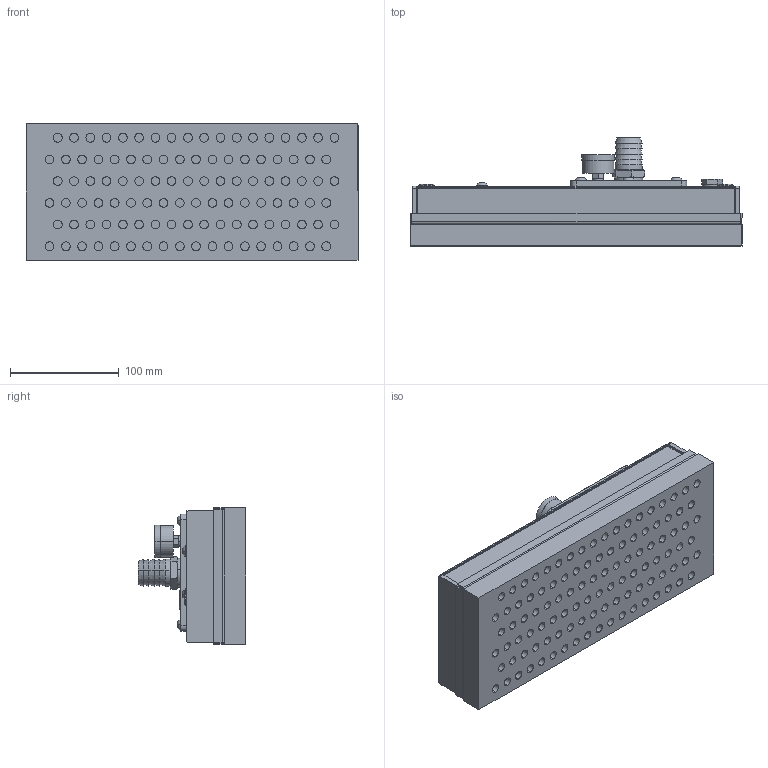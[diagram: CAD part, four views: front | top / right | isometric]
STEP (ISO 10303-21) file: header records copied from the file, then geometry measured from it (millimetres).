
FILE_DESCRIPTION (( 'STEP AP214' ), '1' );
FILE_NAME ('3-9-23581.STEP', '2012-08-30T07:23:07', ( 'cad' ), ( 'Microsoft' ), 'SwSTEP 2.0', 'SolidWorks 2012', '' );
FILE_SCHEMA (( 'AUTOMOTIVE_DESIGN' ));
Length unit declared in the file: millimetre
Products named in the file (1): 3-9-23581
Bounding box: 306 x 99.5 x 126 mm (x, y, z)
Volume: 2021248.4 mm3; surface area: 214296.5 mm2
Topology: 1 solids, 1 shells, 740 faces, 1641 edges, 1048 vertices
Faces by surface type: plane 376, cylinder 302, cone 38, sphere 16, bspline 8
Entity records: 26210 total; most frequent: CARTESIAN_POINT 4042, DIRECTION 3761, ORIENTED_EDGE 3250, EDGE_CURVE 1625, AXIS2_PLACEMENT_3D 1447, VERTEX_POINT 1048, EDGE_LOOP 901, VECTOR 867
